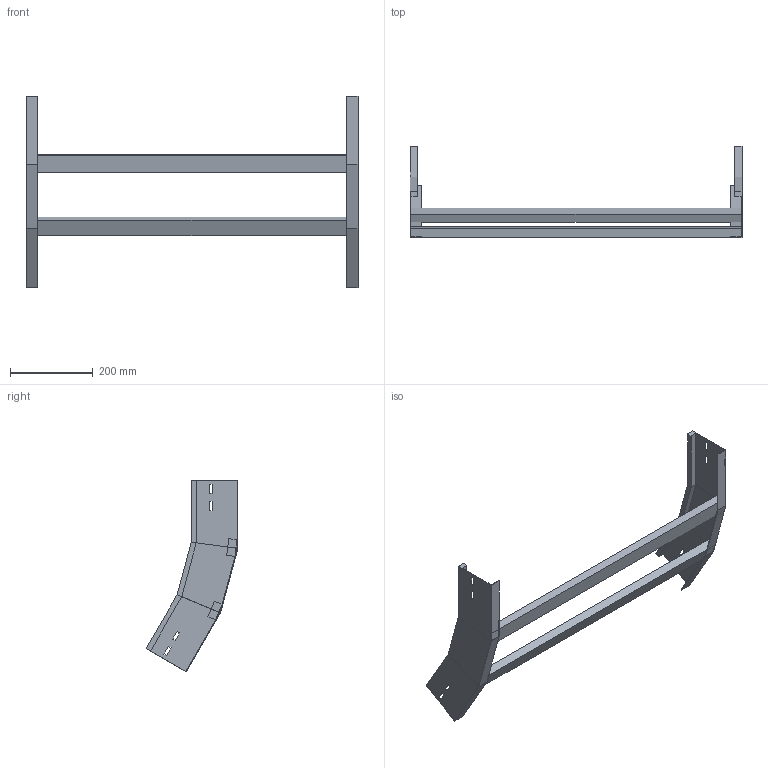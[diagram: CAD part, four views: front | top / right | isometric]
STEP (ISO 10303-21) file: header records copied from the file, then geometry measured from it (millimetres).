
FILE_DESCRIPTION (( 'STEP AP214' ), '1' );
FILE_NAME ('A2X32B5J800XX.step', '2025-03-20T10:00:05', ( '' ), ( '' ), 'SwSTEP 2.0', 'SolidWorks 2023', '' );
FILE_SCHEMA (( 'AUTOMOTIVE_DESIGN' ));
Length unit declared in the file: millimetre
Products named in the file (3): A2X32B5J800XX; LONGH.SALITA_30°_H112.5_R500; TRAVERSINO_800
Assembly tree (4 placements, depth 2):
  A2X32B5J800XX
    LONGH.SALITA_30°_H112.5_R500  x2
    TRAVERSINO_800  x2
Bounding box: 800 x 221.37 x 462.57 mm (x, y, z)
Volume: 1709890.7 mm3; surface area: 483837.4 mm2
Topology: 4 solids, 4 shells, 96 faces, 232 edges, 144 vertices
Faces by surface type: plane 96
Entity records: 1472 total; most frequent: CARTESIAN_POINT 243, ORIENTED_EDGE 232, DIRECTION 226, LINE 116, EDGE_CURVE 116, VECTOR 116, VERTEX_POINT 72, EDGE_LOOP 56
